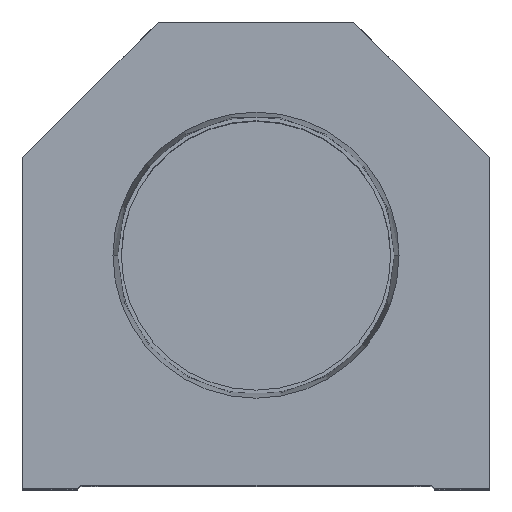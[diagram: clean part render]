
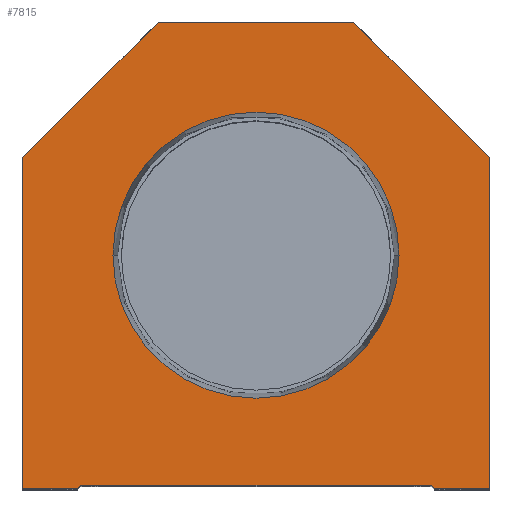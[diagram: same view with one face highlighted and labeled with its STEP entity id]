
A CAD part, top view. The second image highlights one B-rep face of the part: STEP entity #7815.
In plain terms, the highlighted planar face has unit normal (0, 0, 1).
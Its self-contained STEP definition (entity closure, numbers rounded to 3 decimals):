
#531 = ORIENTED_EDGE ( 'NONE', *, *, #15958, .T. ) ;
#711 = EDGE_CURVE ( 'NONE', #8326, #4234, #5557, .T. ) ;
#752 = VECTOR ( 'NONE', #1825, 1000. ) ;
#1028 = VECTOR ( 'NONE', #1322, 1000. ) ;
#1288 = CARTESIAN_POINT ( 'NONE',  ( 38.1, 0., 0. ) ) ;
#1300 = ORIENTED_EDGE ( 'NONE', *, *, #14248, .T. ) ;
#1322 = DIRECTION ( 'NONE',  ( 1., 0., 0. ) ) ;
#1343 = CARTESIAN_POINT ( 'NONE',  ( 38.1, 0., 0. ) ) ;
#1825 = DIRECTION ( 'NONE',  ( -1., 0., 0. ) ) ;
#1936 = CARTESIAN_POINT ( 'NONE',  ( -38.1, 0., 0. ) ) ;
#2318 = CARTESIAN_POINT ( 'NONE',  ( -23.374, 38.1, 0. ) ) ;
#2341 = VERTEX_POINT ( 'NONE', #2318 ) ;
#2419 = AXIS2_PLACEMENT_3D ( 'NONE', #8604, #3802, #3682 ) ;
#2601 = VERTEX_POINT ( 'NONE', #15684 ) ;
#2755 = DIRECTION ( 'NONE',  ( 1., 0., 0. ) ) ;
#2862 = LINE ( 'NONE', #20697, #10300 ) ;
#2924 = CARTESIAN_POINT ( 'NONE',  ( -28.6, 0.5, 0. ) ) ;
#3184 = CARTESIAN_POINT ( 'NONE',  ( 23.374, 38.1, 0. ) ) ;
#3427 = LINE ( 'NONE', #16520, #752 ) ;
#3441 = ORIENTED_EDGE ( 'NONE', *, *, #711, .T. ) ;
#3507 = LINE ( 'NONE', #14961, #16406 ) ;
#3536 = DIRECTION ( 'NONE',  ( 0., 0., 1. ) ) ;
#3640 = FACE_OUTER_BOUND ( 'NONE', #9750, .T. ) ;
#3682 = DIRECTION ( 'NONE',  ( 1., 0., 0. ) ) ;
#3802 = DIRECTION ( 'NONE',  ( 0., 0., 1. ) ) ;
#4234 = VERTEX_POINT ( 'NONE', #11474 ) ;
#4415 = VERTEX_POINT ( 'NONE', #1343 ) ;
#4443 = AXIS2_PLACEMENT_3D ( 'NONE', #11372, #3536, #6535 ) ;
#4697 = CARTESIAN_POINT ( 'NONE',  ( 38.1, 54.1, 0. ) ) ;
#4872 = CIRCLE ( 'NONE', #12046, 23.374 ) ;
#4971 = DIRECTION ( 'NONE',  ( 1., 0., 0. ) ) ;
#5557 = LINE ( 'NONE', #10489, #12127 ) ;
#5888 = VERTEX_POINT ( 'NONE', #13185 ) ;
#6076 = EDGE_CURVE ( 'NONE', #5888, #9134, #19987, .T. ) ;
#6535 = DIRECTION ( 'NONE',  ( 1., 0., 0. ) ) ;
#6695 = ORIENTED_EDGE ( 'NONE', *, *, #19652, .T. ) ;
#6818 = VECTOR ( 'NONE', #15011, 1000. ) ;
#7041 = EDGE_CURVE ( 'NONE', #8019, #2341, #20915, .T. ) ;
#7083 = CARTESIAN_POINT ( 'NONE',  ( -28.6, 0.5, 0. ) ) ;
#7815 = ADVANCED_FACE ( 'NONE', ( #18221, #3640 ), #10171, .T. ) ;
#7819 = LINE ( 'NONE', #1288, #18120 ) ;
#7893 = VECTOR ( 'NONE', #19283, 1000. ) ;
#8019 = VERTEX_POINT ( 'NONE', #3184 ) ;
#8034 = ORIENTED_EDGE ( 'NONE', *, *, #19084, .T. ) ;
#8150 = LINE ( 'NONE', #11294, #19466 ) ;
#8326 = VERTEX_POINT ( 'NONE', #19018 ) ;
#8604 = CARTESIAN_POINT ( 'NONE',  ( 0., 38.1, 0. ) ) ;
#8776 = ORIENTED_EDGE ( 'NONE', *, *, #6076, .T. ) ;
#8929 = ORIENTED_EDGE ( 'NONE', *, *, #14483, .T. ) ;
#9134 = VERTEX_POINT ( 'NONE', #15820 ) ;
#9608 = DIRECTION ( 'NONE',  ( -0.707, -0.707, 0. ) ) ;
#9750 = EDGE_LOOP ( 'NONE', ( #8929, #6695, #19105, #3441, #8034, #19479, #531, #1300, #21140, #8776 ) ) ;
#10086 = VERTEX_POINT ( 'NONE', #7083 ) ;
#10171 = PLANE ( 'NONE',  #4443 ) ;
#10300 = VECTOR ( 'NONE', #2755, 1000. ) ;
#10489 = CARTESIAN_POINT ( 'NONE',  ( 14.55, 14.55, 0. ) ) ;
#10575 = EDGE_CURVE ( 'NONE', #10837, #5888, #3507, .T. ) ;
#10837 = VERTEX_POINT ( 'NONE', #21073 ) ;
#11083 = VERTEX_POINT ( 'NONE', #20221 ) ;
#11116 = LINE ( 'NONE', #11318, #7893 ) ;
#11294 = CARTESIAN_POINT ( 'NONE',  ( -28.6, 0., 0. ) ) ;
#11318 = CARTESIAN_POINT ( 'NONE',  ( -14.55, 14.55, 0. ) ) ;
#11372 = CARTESIAN_POINT ( 'NONE',  ( 0., 0., 0. ) ) ;
#11474 = CARTESIAN_POINT ( 'NONE',  ( 29.1, 0., 0. ) ) ;
#11542 = EDGE_CURVE ( 'NONE', #10086, #8326, #18944, .T. ) ;
#12046 = AXIS2_PLACEMENT_3D ( 'NONE', #14464, #14570, #15772 ) ;
#12127 = VECTOR ( 'NONE', #17018, 1000. ) ;
#13185 = CARTESIAN_POINT ( 'NONE',  ( -38.1, 54.1, 0. ) ) ;
#13468 = ORIENTED_EDGE ( 'NONE', *, *, #16716, .F. ) ;
#13770 = CARTESIAN_POINT ( 'NONE',  ( 38.1, 54.1, 0. ) ) ;
#14248 = EDGE_CURVE ( 'NONE', #11083, #10837, #3427, .T. ) ;
#14464 = CARTESIAN_POINT ( 'NONE',  ( 0., 38.1, 0. ) ) ;
#14483 = EDGE_CURVE ( 'NONE', #9134, #2601, #8150, .T. ) ;
#14570 = DIRECTION ( 'NONE',  ( 0., 0., 1. ) ) ;
#14674 = EDGE_CURVE ( 'NONE', #4415, #17925, #7819, .T. ) ;
#14961 = CARTESIAN_POINT ( 'NONE',  ( -38.1, 54.1, 0. ) ) ;
#15011 = DIRECTION ( 'NONE',  ( 0., -1., 0. ) ) ;
#15684 = CARTESIAN_POINT ( 'NONE',  ( -29.1, 0., 0. ) ) ;
#15772 = DIRECTION ( 'NONE',  ( 1., 0., 0. ) ) ;
#15820 = CARTESIAN_POINT ( 'NONE',  ( -38.1, 0., 0. ) ) ;
#15958 = EDGE_CURVE ( 'NONE', #17925, #11083, #17896, .T. ) ;
#16263 = EDGE_LOOP ( 'NONE', ( #18718, #13468 ) ) ;
#16406 = VECTOR ( 'NONE', #9608, 1000. ) ;
#16520 = CARTESIAN_POINT ( 'NONE',  ( 16., 76.2, 0. ) ) ;
#16716 = EDGE_CURVE ( 'NONE', #2341, #8019, #4872, .T. ) ;
#17018 = DIRECTION ( 'NONE',  ( 0.707, -0.707, 0. ) ) ;
#17896 = LINE ( 'NONE', #4697, #19592 ) ;
#17925 = VERTEX_POINT ( 'NONE', #13770 ) ;
#18120 = VECTOR ( 'NONE', #19554, 1000. ) ;
#18221 = FACE_BOUND ( 'NONE', #16263, .T. ) ;
#18718 = ORIENTED_EDGE ( 'NONE', *, *, #7041, .F. ) ;
#18944 = LINE ( 'NONE', #2924, #1028 ) ;
#19018 = CARTESIAN_POINT ( 'NONE',  ( 28.6, 0.5, 0. ) ) ;
#19084 = EDGE_CURVE ( 'NONE', #4234, #4415, #2862, .T. ) ;
#19105 = ORIENTED_EDGE ( 'NONE', *, *, #11542, .T. ) ;
#19283 = DIRECTION ( 'NONE',  ( 0.707, 0.707, 0. ) ) ;
#19466 = VECTOR ( 'NONE', #4971, 1000. ) ;
#19479 = ORIENTED_EDGE ( 'NONE', *, *, #14674, .T. ) ;
#19554 = DIRECTION ( 'NONE',  ( 0., 1., 0. ) ) ;
#19592 = VECTOR ( 'NONE', #21235, 1000. ) ;
#19652 = EDGE_CURVE ( 'NONE', #2601, #10086, #11116, .T. ) ;
#19987 = LINE ( 'NONE', #1936, #6818 ) ;
#20221 = CARTESIAN_POINT ( 'NONE',  ( 16., 76.2, 0. ) ) ;
#20697 = CARTESIAN_POINT ( 'NONE',  ( 28.6, 0., 0. ) ) ;
#20915 = CIRCLE ( 'NONE', #2419, 23.374 ) ;
#21073 = CARTESIAN_POINT ( 'NONE',  ( -16., 76.2, 0. ) ) ;
#21140 = ORIENTED_EDGE ( 'NONE', *, *, #10575, .T. ) ;
#21235 = DIRECTION ( 'NONE',  ( -0.707, 0.707, 0. ) ) ;
